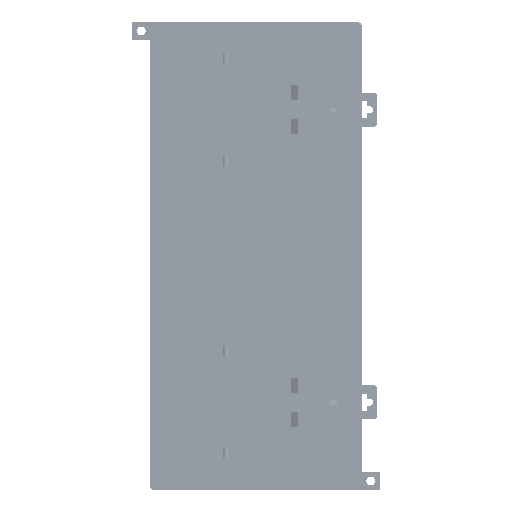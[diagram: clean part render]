
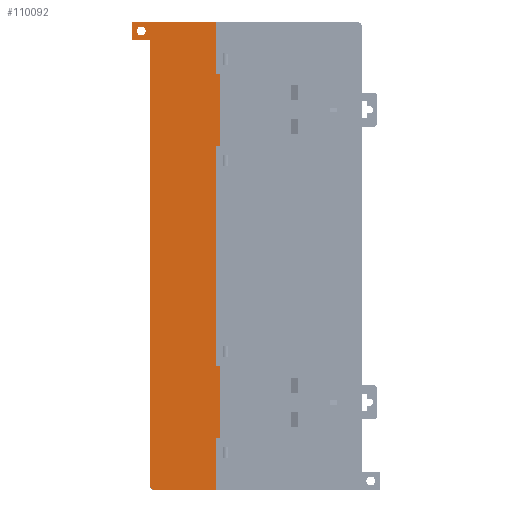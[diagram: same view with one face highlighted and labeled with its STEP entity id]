
A CAD part, left-side view. The second image highlights one B-rep face of the part: STEP entity #110092.
In plain terms, the highlighted planar face has unit normal (-1, 0, 0).
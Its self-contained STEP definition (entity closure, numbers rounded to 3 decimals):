
#21393 = VERTEX_POINT ( 'NONE', #156311 ) ;
#21492 = EDGE_CURVE ( 'NONE', #21502, #21393, #156897, .T. ) ;
#21502 = VERTEX_POINT ( 'NONE', #156804 ) ;
#75513 = CARTESIAN_POINT ( 'NONE',  ( 0., 64.8, -55. ) ) ;
#75521 = CARTESIAN_POINT ( 'NONE',  ( 0., 102., -8. ) ) ;
#75837 = LINE ( 'NONE', #76094, #76090 ) ;
#75971 = DIRECTION ( 'NONE',  ( 0., 0., 1. ) ) ;
#75974 = VECTOR ( 'NONE', #75971, 1000. ) ;
#75977 = CARTESIAN_POINT ( 'NONE',  ( 0., 64.8, -208. ) ) ;
#75985 = CARTESIAN_POINT ( 'NONE',  ( 0., 64.8, -153. ) ) ;
#76013 = LINE ( 'NONE', #75977, #75974 ) ;
#76071 = CARTESIAN_POINT ( 'NONE',  ( 0., 64.8, -208. ) ) ;
#76074 = DIRECTION ( 'NONE',  ( 0., 0., 1. ) ) ;
#76090 = VECTOR ( 'NONE', #76074, 1000. ) ;
#76094 = CARTESIAN_POINT ( 'NONE',  ( 0., 64.8, -208. ) ) ;
#76244 = CARTESIAN_POINT ( 'NONE',  ( 0., 64.8, -185. ) ) ;
#76438 = DIRECTION ( 'NONE',  ( 0., 0., 1. ) ) ;
#76439 = VECTOR ( 'NONE', #76438, 1000. ) ;
#76443 = CARTESIAN_POINT ( 'NONE',  ( 0., 64.8, -208. ) ) ;
#76468 = LINE ( 'NONE', #76443, #76439 ) ;
#76495 = CARTESIAN_POINT ( 'NONE',  ( 0., 64.8, 0. ) ) ;
#76543 = CARTESIAN_POINT ( 'NONE',  ( 0., 64.8, -23. ) ) ;
#102066 = VERTEX_POINT ( 'NONE', #175611 ) ;
#102466 = VERTEX_POINT ( 'NONE', #175939 ) ;
#102491 = EDGE_CURVE ( 'NONE', #102066, #102466, #175927, .T. ) ;
#109699 = VERTEX_POINT ( 'NONE', #75513 ) ;
#109768 = EDGE_CURVE ( 'NONE', #109782, #109787, #75837, .T. ) ;
#109779 = EDGE_CURVE ( 'NONE', #109781, #109699, #76013, .T. ) ;
#109781 = VERTEX_POINT ( 'NONE', #75985 ) ;
#109782 = VERTEX_POINT ( 'NONE', #76071 ) ;
#109787 = VERTEX_POINT ( 'NONE', #76244 ) ;
#109856 = VERTEX_POINT ( 'NONE', #76495 ) ;
#109871 = EDGE_CURVE ( 'NONE', #109872, #109856, #76468, .T. ) ;
#109872 = VERTEX_POINT ( 'NONE', #76543 ) ;
#110022 = VERTEX_POINT ( 'NONE', #123093 ) ;
#110085 = ORIENTED_EDGE ( 'NONE', *, *, #110230, .F. ) ;
#110086 = VERTEX_POINT ( 'NONE', #123312 ) ;
#110087 = VERTEX_POINT ( 'NONE', #123350 ) ;
#110089 = ORIENTED_EDGE ( 'NONE', *, *, #109779, .T. ) ;
#110092 = ADVANCED_FACE ( 'NONE', ( #123301, #123179 ), #123304, .T. ) ;
#110094 = ORIENTED_EDGE ( 'NONE', *, *, #21492, .F. ) ;
#110096 = ORIENTED_EDGE ( 'NONE', *, *, #110099, .T. ) ;
#110099 = EDGE_CURVE ( 'NONE', #102066, #110022, #123416, .T. ) ;
#110102 = EDGE_LOOP ( 'NONE', ( #110104, #110096, #110215, #110219, #110130, #110217, #110221, #110089, #110085, #110235, #110208, #110233, #110212, #110287, #110160 ) ) ;
#110104 = ORIENTED_EDGE ( 'NONE', *, *, #102491, .F. ) ;
#110106 = VERTEX_POINT ( 'NONE', #123268 ) ;
#110109 = EDGE_CURVE ( 'NONE', #110106, #109787, #123405, .T. ) ;
#110121 = EDGE_CURVE ( 'NONE', #110022, #109782, #123425, .T. ) ;
#110123 = ORIENTED_EDGE ( 'NONE', *, *, #110132, .F. ) ;
#110130 = ORIENTED_EDGE ( 'NONE', *, *, #110109, .F. ) ;
#110132 = EDGE_CURVE ( 'NONE', #21393, #21502, #123523, .T. ) ;
#110145 = EDGE_LOOP ( 'NONE', ( #110094, #110123 ) ) ;
#110155 = EDGE_CURVE ( 'NONE', #110201, #110158, #123452, .T. ) ;
#110158 = VERTEX_POINT ( 'NONE', #75521 ) ;
#110160 = ORIENTED_EDGE ( 'NONE', *, *, #110289, .T. ) ;
#110199 = EDGE_CURVE ( 'NONE', #110086, #110087, #123545, .T. ) ;
#110201 = VERTEX_POINT ( 'NONE', #123565 ) ;
#110205 = EDGE_CURVE ( 'NONE', #110086, #109872, #123693, .T. ) ;
#110208 = ORIENTED_EDGE ( 'NONE', *, *, #110205, .T. ) ;
#110210 = EDGE_CURVE ( 'NONE', #110201, #109856, #123674, .T. ) ;
#110212 = ORIENTED_EDGE ( 'NONE', *, *, #110210, .F. ) ;
#110215 = ORIENTED_EDGE ( 'NONE', *, *, #110121, .T. ) ;
#110217 = ORIENTED_EDGE ( 'NONE', *, *, #110223, .F. ) ;
#110219 = ORIENTED_EDGE ( 'NONE', *, *, #109768, .T. ) ;
#110221 = ORIENTED_EDGE ( 'NONE', *, *, #110228, .T. ) ;
#110223 = EDGE_CURVE ( 'NONE', #110226, #110106, #123680, .T. ) ;
#110226 = VERTEX_POINT ( 'NONE', #123663 ) ;
#110228 = EDGE_CURVE ( 'NONE', #110226, #109781, #123652, .T. ) ;
#110230 = EDGE_CURVE ( 'NONE', #110087, #109699, #123643, .T. ) ;
#110233 = ORIENTED_EDGE ( 'NONE', *, *, #109871, .T. ) ;
#110235 = ORIENTED_EDGE ( 'NONE', *, *, #110199, .F. ) ;
#110287 = ORIENTED_EDGE ( 'NONE', *, *, #110155, .T. ) ;
#110289 = EDGE_CURVE ( 'NONE', #110158, #102466, #123876, .T. ) ;
#123093 = CARTESIAN_POINT ( 'NONE',  ( 0., 92., -208. ) ) ;
#123179 = FACE_OUTER_BOUND ( 'NONE', #110102, .T. ) ;
#123223 = CARTESIAN_POINT ( 'NONE',  ( 0., 64.8, -208. ) ) ;
#123262 = CARTESIAN_POINT ( 'NONE',  ( 0., 62.8, -185. ) ) ;
#123268 = CARTESIAN_POINT ( 'NONE',  ( 0., 62.8, -185. ) ) ;
#123286 = AXIS2_PLACEMENT_3D ( 'NONE', #123223, #123430, #123428 ) ;
#123301 = FACE_BOUND ( 'NONE', #110145, .T. ) ;
#123304 = PLANE ( 'NONE',  #123286 ) ;
#123312 = CARTESIAN_POINT ( 'NONE',  ( 0., 62.8, -23. ) ) ;
#123350 = CARTESIAN_POINT ( 'NONE',  ( 0., 62.8, -55. ) ) ;
#123380 = DIRECTION ( 'NONE',  ( 0., -1., 0. ) ) ;
#123381 = VECTOR ( 'NONE', #123380, 1000. ) ;
#123382 = CARTESIAN_POINT ( 'NONE',  ( 0., 64.8, -208. ) ) ;
#123403 = DIRECTION ( 'NONE',  ( 0., 1., 0. ) ) ;
#123404 = VECTOR ( 'NONE', #123403, 1000. ) ;
#123405 = LINE ( 'NONE', #123262, #123404 ) ;
#123411 = DIRECTION ( 'NONE',  ( 0., 0., 1. ) ) ;
#123413 = DIRECTION ( 'NONE',  ( -1., 0., 0. ) ) ;
#123414 = CARTESIAN_POINT ( 'NONE',  ( 0., 92., -206. ) ) ;
#123415 = AXIS2_PLACEMENT_3D ( 'NONE', #123414, #123413, #123411 ) ;
#123416 = CIRCLE ( 'NONE', #123415, 2. ) ;
#123425 = LINE ( 'NONE', #123382, #123381 ) ;
#123428 = DIRECTION ( 'NONE',  ( 0., 0., 1. ) ) ;
#123430 = DIRECTION ( 'NONE',  ( -1., 0., 0. ) ) ;
#123447 = DIRECTION ( 'NONE',  ( 0., 0., -1. ) ) ;
#123450 = VECTOR ( 'NONE', #123447, 1000. ) ;
#123452 = LINE ( 'NONE', #123481, #123450 ) ;
#123481 = CARTESIAN_POINT ( 'NONE',  ( 0., 102., 0. ) ) ;
#123509 = DIRECTION ( 'NONE',  ( 0., 0., 1. ) ) ;
#123511 = DIRECTION ( 'NONE',  ( -1., 0., 0. ) ) ;
#123512 = CARTESIAN_POINT ( 'NONE',  ( 0., 98., -4. ) ) ;
#123513 = AXIS2_PLACEMENT_3D ( 'NONE', #123512, #123511, #123509 ) ;
#123523 = CIRCLE ( 'NONE', #123513, 2. ) ;
#123539 = DIRECTION ( 'NONE',  ( 0., 0., -1. ) ) ;
#123542 = VECTOR ( 'NONE', #123539, 1000. ) ;
#123545 = LINE ( 'NONE', #123567, #123542 ) ;
#123547 = CARTESIAN_POINT ( 'NONE',  ( 0., 62.8, -185. ) ) ;
#123565 = CARTESIAN_POINT ( 'NONE',  ( 0., 102., 0. ) ) ;
#123567 = CARTESIAN_POINT ( 'NONE',  ( 0., 62.8, -23. ) ) ;
#123638 = DIRECTION ( 'NONE',  ( 0., 1., 0. ) ) ;
#123639 = VECTOR ( 'NONE', #123638, 1000. ) ;
#123641 = CARTESIAN_POINT ( 'NONE',  ( 0., 62.8, -55. ) ) ;
#123643 = LINE ( 'NONE', #123641, #123639 ) ;
#123647 = DIRECTION ( 'NONE',  ( 0., 1., 0. ) ) ;
#123648 = VECTOR ( 'NONE', #123647, 1000. ) ;
#123652 = LINE ( 'NONE', #123682, #123648 ) ;
#123656 = DIRECTION ( 'NONE',  ( 0., 0., -1. ) ) ;
#123658 = VECTOR ( 'NONE', #123656, 1000. ) ;
#123663 = CARTESIAN_POINT ( 'NONE',  ( 0., 62.8, -153. ) ) ;
#123668 = DIRECTION ( 'NONE',  ( 0., -1., 0. ) ) ;
#123670 = VECTOR ( 'NONE', #123668, 1000. ) ;
#123672 = CARTESIAN_POINT ( 'NONE',  ( 0., 64.8, 0. ) ) ;
#123674 = LINE ( 'NONE', #123672, #123670 ) ;
#123680 = LINE ( 'NONE', #123547, #123658 ) ;
#123682 = CARTESIAN_POINT ( 'NONE',  ( 0., 62.8, -153. ) ) ;
#123687 = DIRECTION ( 'NONE',  ( 0., 1., 0. ) ) ;
#123689 = VECTOR ( 'NONE', #123687, 1000. ) ;
#123691 = CARTESIAN_POINT ( 'NONE',  ( 0., 62.8, -23. ) ) ;
#123693 = LINE ( 'NONE', #123691, #123689 ) ;
#123843 = DIRECTION ( 'NONE',  ( 0., -1., 0. ) ) ;
#123845 = VECTOR ( 'NONE', #123843, 1000. ) ;
#123859 = CARTESIAN_POINT ( 'NONE',  ( 0., 94., -8. ) ) ;
#123876 = LINE ( 'NONE', #123859, #123845 ) ;
#156311 = CARTESIAN_POINT ( 'NONE',  ( 0., 98., -2. ) ) ;
#156798 = CARTESIAN_POINT ( 'NONE',  ( 0., 98., -4. ) ) ;
#156804 = CARTESIAN_POINT ( 'NONE',  ( 0., 98., -6. ) ) ;
#156880 = DIRECTION ( 'NONE',  ( 0., 0., 1. ) ) ;
#156881 = DIRECTION ( 'NONE',  ( -1., 0., 0. ) ) ;
#156883 = AXIS2_PLACEMENT_3D ( 'NONE', #156798, #156881, #156880 ) ;
#156897 = CIRCLE ( 'NONE', #156883, 2. ) ;
#175611 = CARTESIAN_POINT ( 'NONE',  ( 0., 94., -206. ) ) ;
#175921 = DIRECTION ( 'NONE',  ( 0., 0., 1. ) ) ;
#175922 = VECTOR ( 'NONE', #175921, 1000. ) ;
#175923 = CARTESIAN_POINT ( 'NONE',  ( 0., 94., -208. ) ) ;
#175927 = LINE ( 'NONE', #175923, #175922 ) ;
#175939 = CARTESIAN_POINT ( 'NONE',  ( 0., 94., -8. ) ) ;
